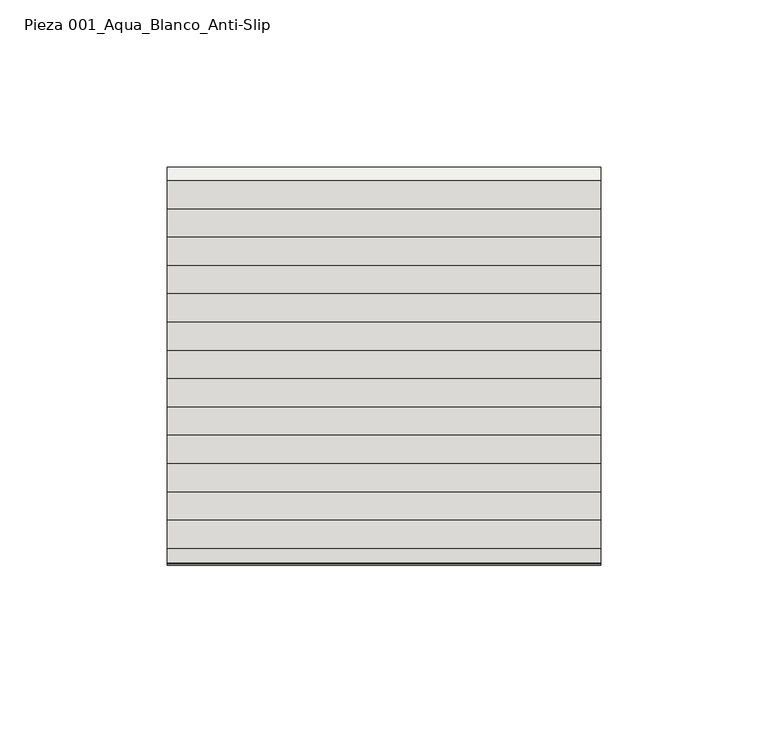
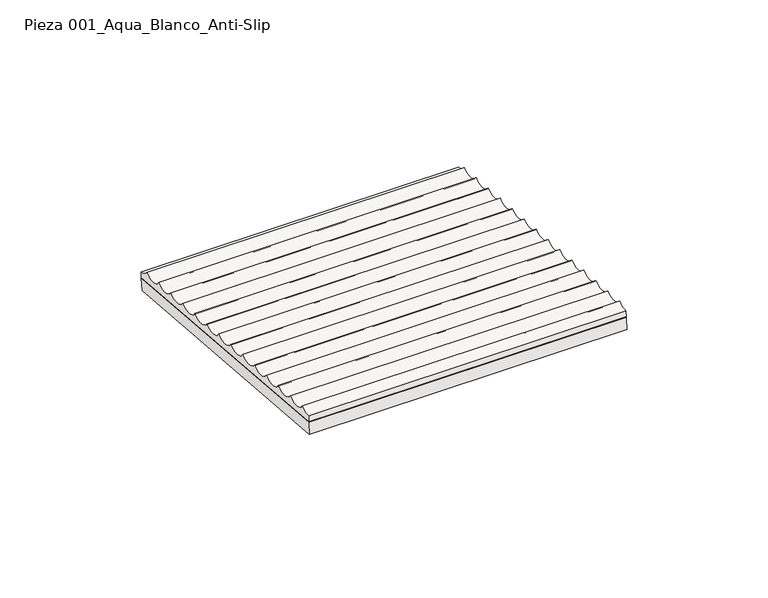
"""IFC4 building model written with IfcOpenShell, lengths in millimetres: slab geometry, ROSA GRES_001 (1 fila) : Pieza 001_Aqua_Blanco_Anti-Slip."""

from ifc_helpers import new_model, si_unit, point, frame, frame_2d, origin, place, context, project, spatial, polyline, circle_curve, trimmed, segment, composite_curve, outline, extrude, source, transform, mapped, element, save


def pieza_001_aqua_blanco_anti_slip_42895033(model_context):
    return source(origin(), model_context, "Body", "SweptSolid", [
        extrude(outline(polyline([(59.4997999, 0.0), (59.4997999, -129.8358479), (-59.4998, -129.8358479), (-59.4998, 0.0), (59.4997999, 0.0)])), frame((129.8358479, -179.3036749, 204.5238637), z_axis=(0.0, 0.08112705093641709, 0.9967037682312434), x_axis=(0.0, -0.9967037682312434, 0.08112705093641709)), (0.0, 0.0, 1.0), 5.0),
        extrude(outline(composite_curve([segment(polyline([(-238.2017145, 214.3344258), (-237.9885153, 216.9537305)]), True, "CONTINUOUS"), segment(trimmed(circle_curve(frame_2d((-237.534912, 222.5265709)), 5.5912705), [point((-237.9885153, 216.9537305))], [point((-233.5936836, 218.5605875))], True, "CARTESIAN"), True, "CONTINUOUS"), segment(trimmed(circle_curve(frame_2d((-229.0629584, 221.8369933)), 5.5912705), [point((-233.5936836, 218.5605875))], [point((-225.12173, 217.8710099))], True, "CARTESIAN"), True, "CONTINUOUS"), segment(trimmed(circle_curve(frame_2d((-220.5910049, 221.1474157)), 5.5912705), [point((-225.12173, 217.8710099))], [point((-216.6497765, 217.1814322))], True, "CARTESIAN"), True, "CONTINUOUS"), segment(trimmed(circle_curve(frame_2d((-212.1190513, 220.457838)), 5.5912705), [point((-216.6497765, 217.1814322))], [point((-208.1778229, 216.4918546))], True, "CARTESIAN"), True, "CONTINUOUS"), segment(trimmed(circle_curve(frame_2d((-203.6470978, 219.7682604)), 5.5912705), [point((-208.1778229, 216.4918546))], [point((-199.7058694, 215.802277))], True, "CARTESIAN"), True, "CONTINUOUS"), segment(trimmed(circle_curve(frame_2d((-195.1751442, 219.0786828)), 5.5912705), [point((-199.7058694, 215.802277))], [point((-191.2339158, 215.1126994))], True, "CARTESIAN"), True, "CONTINUOUS"), segment(trimmed(circle_curve(frame_2d((-186.7031907, 218.3891052)), 5.5912705), [point((-191.2339158, 215.1126994))], [point((-182.7619623, 214.4231218))], True, "CARTESIAN"), True, "CONTINUOUS"), segment(trimmed(circle_curve(frame_2d((-178.2312371, 217.6995276)), 5.5912705), [point((-182.7619623, 214.4231218))], [point((-174.2900087, 213.7335442))], True, "CARTESIAN"), True, "CONTINUOUS"), segment(trimmed(circle_curve(frame_2d((-169.7592836, 217.00995)), 5.5912705), [point((-174.2900087, 213.7335442))], [point((-165.8180552, 213.0439666))], True, "CARTESIAN"), True, "CONTINUOUS"), segment(trimmed(circle_curve(frame_2d((-161.28733, 216.3203723)), 5.5912705), [point((-165.8180552, 213.0439666))], [point((-157.3461016, 212.3543889))], True, "CARTESIAN"), True, "CONTINUOUS"), segment(trimmed(circle_curve(frame_2d((-152.8153765, 215.6307947)), 5.5912705), [point((-157.3461016, 212.3543889))], [point((-148.8741481, 211.6648113))], True, "CARTESIAN"), True, "CONTINUOUS"), segment(trimmed(circle_curve(frame_2d((-144.3434229, 214.9412171)), 5.5912705), [point((-148.8741481, 211.6648113))], [point((-140.4021945, 210.9752337))], True, "CARTESIAN"), True, "CONTINUOUS"), segment(trimmed(circle_curve(frame_2d((-135.8714693, 214.2516395)), 5.5912705), [point((-140.4021945, 210.9752337))], [point((-131.930241, 210.2856561))], True, "CARTESIAN"), True, "CONTINUOUS"), segment(trimmed(circle_curve(frame_2d((-127.3995158, 213.5620619)), 5.5912705), [point((-131.930241, 210.2856561))], [point((-123.4582874, 209.5960785))], True, "CARTESIAN"), True, "CONTINUOUS"), segment(trimmed(circle_curve(frame_2d((-118.9275622, 212.8724843)), 5.5912705), [point((-123.4582874, 209.5960785))], [point((-119.3811655, 207.2996439))], True, "CARTESIAN"), True, "CONTINUOUS"), segment(polyline([(-119.3811655, 207.2996439), (-119.5943647, 204.6803392), (-238.2017145, 214.3344258)]), True, "CONTINUOUS")], self_intersect=False)), frame((0.0, 0.0, 0.0), z_axis=(1.0, 0.0, 0.0), x_axis=(0.0, 1.0, 0.0)), (0.0, 0.0, 1.0), 129.8358479),
    ])


if __name__ == "__main__":
    model = new_model("IFC4")
    model_context = context("Model", 3, world=origin())
    ifc_project = project(units=[si_unit("LENGTHUNIT", "METRE", prefix="MILLI")], contexts=[model_context])
    site = spatial("IfcSite", under=ifc_project)
    building = spatial("IfcBuilding", under=site)
    placement = place(None, origin())
    pieza_001_aqua_blanco_anti_slip_shape = pieza_001_aqua_blanco_anti_slip_42895033(model_context)
    element("IfcSlab", 1, ObjectType="ROSA GRES_001 (1 fila) : Pieza 001_Aqua_Blanco_Anti-Slip", at=placement, inside=building, context=model_context, shape_type="MappedRepresentation", body=[
        mapped(pieza_001_aqua_blanco_anti_slip_shape, transform((0.0, 0.0, 0.0), x_axis=(1.0, 0.0, 0.0), y_axis=(0.0, 1.0, 0.0), z_axis=(0.0, 0.0, 1.0))),
    ])
    save(model, "model.ifc")
